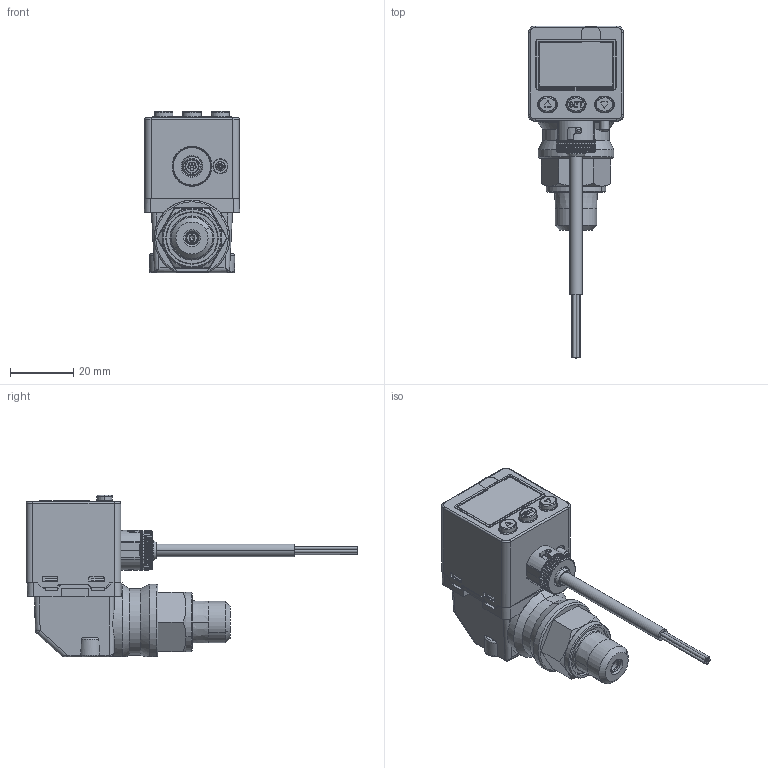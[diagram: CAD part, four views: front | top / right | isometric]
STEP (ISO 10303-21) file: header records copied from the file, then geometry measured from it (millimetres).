
FILE_DESCRIPTION((''),'2;1');
FILE_NAME('KP50_F1L','2019-07-09T',('Stark'),(''),'CREO PARAMETRIC BY PTC INC, 2014500','CREO PARAMETRIC BY PTC INC, 2014500','');
FILE_SCHEMA(('CONFIG_CONTROL_DESIGN'));
Products named in the file (1): KP50_F1L
Bounding box: 30.31 x 105.3 x 51.2 mm (x, y, z)
Volume: 49539.3 mm3; surface area: 13072.2 mm2
Topology: 1 solids, 1 shells, 1026 faces, 2859 edges, 1846 vertices
Faces by surface type: plane 419, cylinder 296, cone 184, bspline 84, torus 33, extrusion 6, sphere 4
Entity records: 43682 total; most frequent: CARTESIAN_POINT 19192, ORIENTED_EDGE 5710, DIRECTION 4241, EDGE_CURVE 2855, VERTEX_POINT 1846, AXIS2_PLACEMENT_3D 1486, VECTOR 1269, LINE 1263
